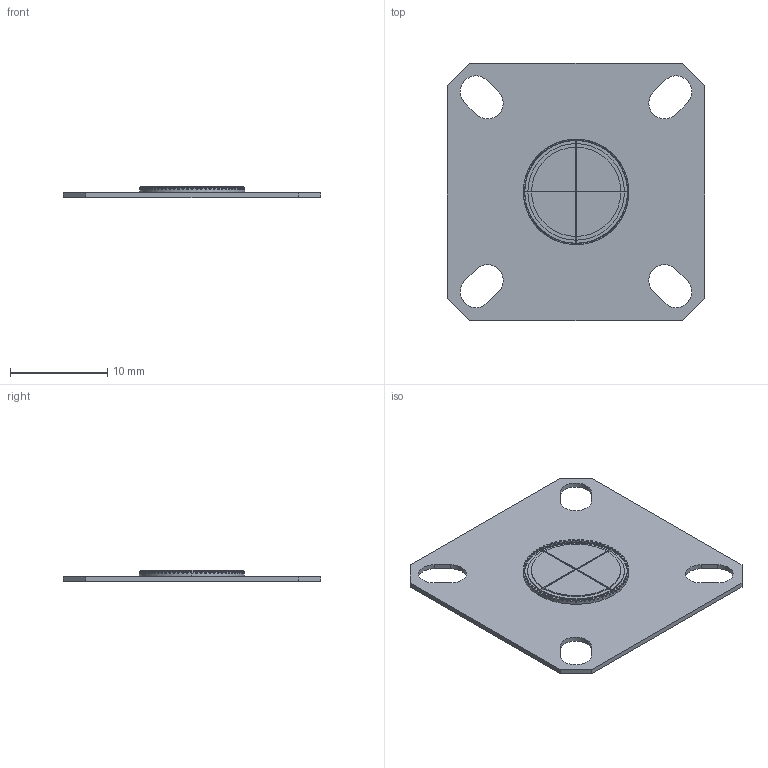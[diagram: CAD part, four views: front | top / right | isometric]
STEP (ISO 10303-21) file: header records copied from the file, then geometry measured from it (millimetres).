
FILE_DESCRIPTION((''),'2;1');
FILE_NAME('PROTO_INSERT_SIM_DUMMY-11','2020-10-15T11:14:34',('ccole'),(''),'CREO PARAMETRIC BY PTC INC, 2019292','CREO PARAMETRIC BY PTC INC, 2019292','');
FILE_SCHEMA(('CONFIG_CONTROL_DESIGN'));
Length unit declared in the file: inch
Products named in the file (1): PROTO_INSERT_SIM_DUMMY-11
Bounding box: 26.49 x 26.49 x 1.14 mm (x, y, z)
Volume: 365.8 mm3; surface area: 1386.7 mm2
Topology: 1 solids, 1 shells, 499 faces, 1479 edges, 983 vertices
Faces by surface type: plane 257, cylinder 242
Entity records: 18205 total; most frequent: CARTESIAN_POINT 6064, ORIENTED_EDGE 2958, DIRECTION 1933, EDGE_CURVE 1479, VERTEX_POINT 983, B_SPLINE_CURVE_WITH_KNOTS 731, AXIS2_PLACEMENT_3D 686, VECTOR 561
